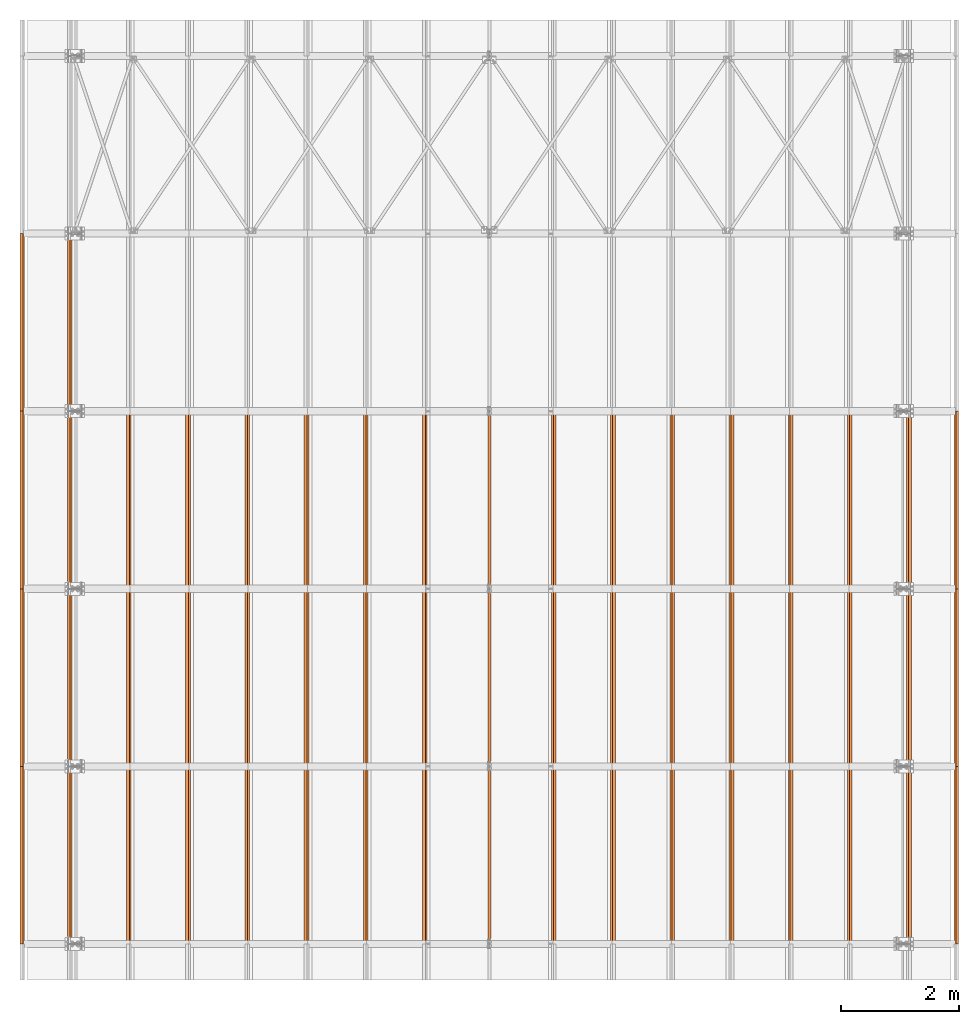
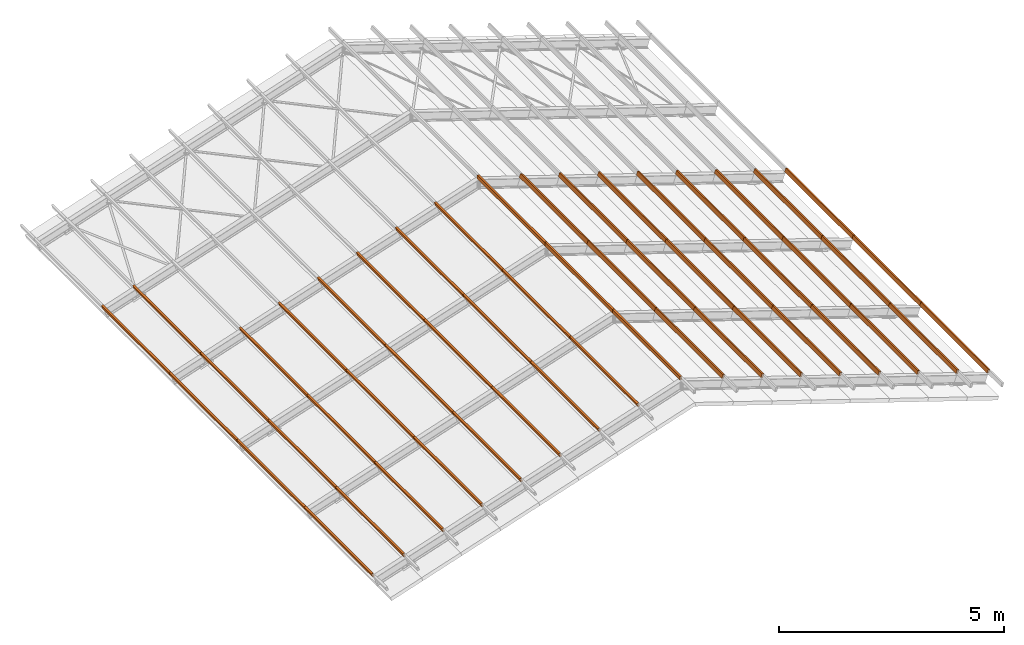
# One storey, part 51 of 53: 53 proxies.
"""IFC4 building model written with IfcOpenShell, lengths in metres."""

from ifc_helpers import new_model, si_unit, frame, frame_2d, origin_with_axes, origin_2d_with_axis, place, context, project, spatial, hollow_rectangle, l_section, extrude, material, material_profile, profile_set, profile_usage, type_object, element, save


model = new_model("IFC4")

# Units and contexts
model_context = context("Model", 3, precision=1e-05, world=origin_with_axes())
ifc_project = project(units=[si_unit("LENGTHUNIT", "METRE"), si_unit("AREAUNIT", "SQUARE_METRE"), si_unit("VOLUMEUNIT", "CUBIC_METRE"), si_unit("MASSUNIT", "GRAM", prefix="KILO"), si_unit("TIMEUNIT", "SECOND"), si_unit("PLANEANGLEUNIT", "RADIAN"), si_unit("SOLIDANGLEUNIT", "STERADIAN"), si_unit("THERMODYNAMICTEMPERATUREUNIT", "DEGREE_CELSIUS")], contexts=[model_context])

# Site, building, storey
placement_1 = place(None, origin_with_axes())
site = spatial("IfcSite", under=ifc_project, at=placement_1, Name="Italia", CompositionType="ELEMENT")
building = spatial("IfcBuilding", under=site, at=placement_1, Name="Capannone", CompositionType="ELEMENT")
storey_placement = place(None, frame((0.0, 0.0, 5.550000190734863), z_axis=(0.0, 0.0, 1.0), x_axis=(1.0, 0.0, 0.0)))
storey = spatial("IfcBuildingStorey", under=building, at=storey_placement, Name="Storey 1", CompositionType="ELEMENT", Elevation=5.550000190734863)

# Proxies
ifc_material = material(Name="Acciaio", Category="Acciaio")
ifc_material_profile = material_profile(ifc_material, l_section(Depth=0.045, Width=0.045, Thickness=0.004, FilletRadius=0.0, EdgeRadius=0.0, at=origin_2d_with_axis()), Name="2 L45x4")
ifc_profile_set = profile_set([ifc_material_profile])
ifc_profile_usage_1 = profile_usage(ifc_profile_set, cardinal=8)
member_type_1 = type_object("IfcMemberType", Name="4 RHS100x50x3.2", PredefinedType="MEMBER", material=ifc_profile_usage_1)
placement_2 = place(placement_1, origin_with_axes())
proxy_1_placement = place(placement_2, origin_with_axes())
element("IfcBuildingElementProxy", 1, at=proxy_1_placement, inside=storey, type_object=member_type_1, Name="107", context=model_context, shape_type="SweptSolid", body=[
    extrude(hollow_rectangle(XDim=0.05, YDim=0.1, WallThickness=0.0032, at=frame_2d((0.0, 0.0), x_axis=(0.950032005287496, -0.312152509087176))), frame((-0.890524, 0.0, 5.56265), z_axis=(0.0, 1.0, 0.0), x_axis=(-1.0, 0.0, 0.0)), (0.0, 0.0, 1.0), 3.0),
])
ifc_profile_usage_2 = profile_usage(ifc_profile_set, cardinal=8)
member_type_2 = type_object("IfcMemberType", Name="4 RHS100x50x3.2", PredefinedType="MEMBER", material=ifc_profile_usage_2)
proxy_2_placement = place(placement_2, origin_with_axes())
element("IfcBuildingElementProxy", 2, at=proxy_2_placement, inside=storey, type_object=member_type_2, Name="107", context=model_context, shape_type="SweptSolid", body=[
    extrude(hollow_rectangle(XDim=0.05, YDim=0.1, WallThickness=0.0032, at=frame_2d((0.0, 0.0), x_axis=(0.950032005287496, -0.312152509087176))), frame((-0.890524, 3.0, 5.56265), z_axis=(0.0, 1.0, 0.0), x_axis=(-1.0, 0.0, 0.0)), (0.0, 0.0, 1.0), 3.0),
])
ifc_profile_usage_3 = profile_usage(ifc_profile_set, cardinal=8)
member_type_3 = type_object("IfcMemberType", Name="4 RHS100x50x3.2", PredefinedType="MEMBER", material=ifc_profile_usage_3)
proxy_3_placement = place(placement_2, origin_with_axes())
element("IfcBuildingElementProxy", 3, at=proxy_3_placement, inside=storey, type_object=member_type_3, Name="107", context=model_context, shape_type="SweptSolid", body=[
    extrude(hollow_rectangle(XDim=0.05, YDim=0.1, WallThickness=0.0032, at=frame_2d((0.0, 0.0), x_axis=(0.950032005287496, -0.312152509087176))), frame((-0.890524, 6.0, 5.56265), z_axis=(0.0, 1.0, 0.0), x_axis=(-1.0, 0.0, 0.0)), (0.0, 0.0, 1.0), 3.0),
])
ifc_profile_usage_4 = profile_usage(ifc_profile_set, cardinal=8)
member_type_4 = type_object("IfcMemberType", Name="4 RHS100x50x3.2", PredefinedType="MEMBER", material=ifc_profile_usage_4)
proxy_4_placement = place(placement_2, origin_with_axes())
element("IfcBuildingElementProxy", 4, at=proxy_4_placement, inside=storey, type_object=member_type_4, Name="107", context=model_context, shape_type="SweptSolid", body=[
    extrude(hollow_rectangle(XDim=0.05, YDim=0.1, WallThickness=0.0032, at=frame_2d((0.0, 0.0), x_axis=(0.950032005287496, -0.312152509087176))), frame((-0.890524, 9.0, 5.56265), z_axis=(0.0, 1.0, 0.0), x_axis=(-1.0, 0.0, 0.0)), (0.0, 0.0, 1.0), 3.0),
])
ifc_profile_usage_5 = profile_usage(ifc_profile_set, cardinal=8)
member_type_5 = type_object("IfcMemberType", Name="4 RHS100x50x3.2", PredefinedType="MEMBER", material=ifc_profile_usage_5)
proxy_5_placement = place(placement_2, origin_with_axes())
element("IfcBuildingElementProxy", 5, at=proxy_5_placement, inside=storey, type_object=member_type_5, Name="123", context=model_context, shape_type="SweptSolid", body=[
    extrude(hollow_rectangle(XDim=0.05, YDim=0.1, WallThickness=0.0032, at=frame_2d((0.0, 0.0), x_axis=(0.950032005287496, 0.312152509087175))), frame((14.8905, 6.0, 5.56265), z_axis=(0.0, 1.0, 0.0), x_axis=(-1.0, 0.0, 0.0)), (0.0, 0.0, 1.0), 3.0),
])
ifc_profile_usage_6 = profile_usage(ifc_profile_set, cardinal=8)
member_type_6 = type_object("IfcMemberType", Name="4 RHS100x50x3.2", PredefinedType="MEMBER", material=ifc_profile_usage_6)
proxy_6_placement = place(placement_2, origin_with_axes())
element("IfcBuildingElementProxy", 6, at=proxy_6_placement, inside=storey, type_object=member_type_6, Name="123", context=model_context, shape_type="SweptSolid", body=[
    extrude(hollow_rectangle(XDim=0.05, YDim=0.1, WallThickness=0.0032, at=frame_2d((0.0, 0.0), x_axis=(0.950032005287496, 0.312152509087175))), frame((14.8905, 3.0, 5.56265), z_axis=(0.0, 1.0, 0.0), x_axis=(-1.0, 0.0, 0.0)), (0.0, 0.0, 1.0), 3.0),
])
ifc_profile_usage_7 = profile_usage(ifc_profile_set, cardinal=8)
member_type_7 = type_object("IfcMemberType", Name="4 RHS100x50x3.2", PredefinedType="MEMBER", material=ifc_profile_usage_7)
proxy_7_placement = place(placement_2, origin_with_axes())
element("IfcBuildingElementProxy", 7, at=proxy_7_placement, inside=storey, type_object=member_type_7, Name="123", context=model_context, shape_type="SweptSolid", body=[
    extrude(hollow_rectangle(XDim=0.05, YDim=0.1, WallThickness=0.0032, at=frame_2d((0.0, 0.0), x_axis=(0.950032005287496, 0.312152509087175))), frame((14.8905, 0.0, 5.56265), z_axis=(0.0, 1.0, 0.0), x_axis=(-1.0, 0.0, 0.0)), (0.0, 0.0, 1.0), 3.0),
])
ifc_profile_usage_8 = profile_usage(ifc_profile_set, cardinal=8)
member_type_8 = type_object("IfcMemberType", Name="4 RHS100x50x3.2", PredefinedType="MEMBER", material=ifc_profile_usage_8)
proxy_8_placement = place(placement_2, origin_with_axes())
element("IfcBuildingElementProxy", 8, at=proxy_8_placement, inside=storey, type_object=member_type_8, Name="122", context=model_context, shape_type="SweptSolid", body=[
    extrude(hollow_rectangle(XDim=0.05, YDim=0.1, WallThickness=0.0032, at=frame_2d((0.0, 0.0), x_axis=(0.950032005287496, 0.312152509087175))), frame((14.0905, 6.0, 5.82551), z_axis=(0.0, 1.0, 0.0), x_axis=(-1.0, 0.0, 0.0)), (0.0, 0.0, 1.0), 3.0),
])
ifc_profile_usage_9 = profile_usage(ifc_profile_set, cardinal=8)
member_type_9 = type_object("IfcMemberType", Name="4 RHS100x50x3.2", PredefinedType="MEMBER", material=ifc_profile_usage_9)
proxy_9_placement = place(placement_2, origin_with_axes())
element("IfcBuildingElementProxy", 9, at=proxy_9_placement, inside=storey, type_object=member_type_9, Name="122", context=model_context, shape_type="SweptSolid", body=[
    extrude(hollow_rectangle(XDim=0.05, YDim=0.1, WallThickness=0.0032, at=frame_2d((0.0, 0.0), x_axis=(0.950032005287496, 0.312152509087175))), frame((14.0905, 3.0, 5.82551), z_axis=(0.0, 1.0, 0.0), x_axis=(-1.0, 0.0, 0.0)), (0.0, 0.0, 1.0), 3.0),
])
ifc_profile_usage_10 = profile_usage(ifc_profile_set, cardinal=8)
member_type_10 = type_object("IfcMemberType", Name="4 RHS100x50x3.2", PredefinedType="MEMBER", material=ifc_profile_usage_10)
proxy_10_placement = place(placement_2, origin_with_axes())
element("IfcBuildingElementProxy", 10, at=proxy_10_placement, inside=storey, type_object=member_type_10, Name="108", context=model_context, shape_type="SweptSolid", body=[
    extrude(hollow_rectangle(XDim=0.05, YDim=0.1, WallThickness=0.0032, at=frame_2d((0.0, 0.0), x_axis=(0.950031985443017, -0.312152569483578))), frame((-0.0905242, 9.0, 5.82551), z_axis=(0.0, 1.0, 0.0), x_axis=(-1.0, 0.0, 0.0)), (0.0, 0.0, 1.0), 3.0),
])
ifc_profile_usage_11 = profile_usage(ifc_profile_set, cardinal=8)
member_type_11 = type_object("IfcMemberType", Name="4 RHS100x50x3.2", PredefinedType="MEMBER", material=ifc_profile_usage_11)
proxy_11_placement = place(placement_2, origin_with_axes())
element("IfcBuildingElementProxy", 11, at=proxy_11_placement, inside=storey, type_object=member_type_11, Name="108", context=model_context, shape_type="SweptSolid", body=[
    extrude(hollow_rectangle(XDim=0.05, YDim=0.1, WallThickness=0.0032, at=frame_2d((0.0, 0.0), x_axis=(0.950031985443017, -0.312152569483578))), frame((-0.0905242, 6.0, 5.82551), z_axis=(0.0, 1.0, 0.0), x_axis=(-1.0, 0.0, 0.0)), (0.0, 0.0, 1.0), 3.0),
])
ifc_profile_usage_12 = profile_usage(ifc_profile_set, cardinal=8)
member_type_12 = type_object("IfcMemberType", Name="4 RHS100x50x3.2", PredefinedType="MEMBER", material=ifc_profile_usage_12)
proxy_12_placement = place(placement_2, origin_with_axes())
element("IfcBuildingElementProxy", 12, at=proxy_12_placement, inside=storey, type_object=member_type_12, Name="108", context=model_context, shape_type="SweptSolid", body=[
    extrude(hollow_rectangle(XDim=0.05, YDim=0.1, WallThickness=0.0032, at=frame_2d((0.0, 0.0), x_axis=(0.950031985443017, -0.312152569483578))), frame((-0.0905242, 3.0, 5.82551), z_axis=(0.0, 1.0, 0.0), x_axis=(-1.0, 0.0, 0.0)), (0.0, 0.0, 1.0), 3.0),
])
ifc_profile_usage_13 = profile_usage(ifc_profile_set, cardinal=8)
member_type_13 = type_object("IfcMemberType", Name="4 RHS100x50x3.2", PredefinedType="MEMBER", material=ifc_profile_usage_13)
proxy_13_placement = place(placement_2, origin_with_axes())
element("IfcBuildingElementProxy", 13, at=proxy_13_placement, inside=storey, type_object=member_type_13, Name="115", context=model_context, shape_type="SweptSolid", body=[
    extrude(hollow_rectangle(XDim=0.05, YDim=0.1, WallThickness=0.0032, at=origin_2d_with_axis()), frame((7.0, 3.0, 8.14), z_axis=(0.0, -1.0, 0.0), x_axis=(1.0, 0.0, 0.0)), (0.0, 0.0, 1.0), 3.0),
])
ifc_profile_usage_14 = profile_usage(ifc_profile_set, cardinal=8)
member_type_14 = type_object("IfcMemberType", Name="4 RHS100x50x3.2", PredefinedType="MEMBER", material=ifc_profile_usage_14)
proxy_14_placement = place(placement_2, origin_with_axes())
element("IfcBuildingElementProxy", 14, at=proxy_14_placement, inside=storey, type_object=member_type_14, Name="115", context=model_context, shape_type="SweptSolid", body=[
    extrude(hollow_rectangle(XDim=0.05, YDim=0.1, WallThickness=0.0032, at=origin_2d_with_axis()), frame((7.0, 6.0, 8.14), z_axis=(0.0, -1.0, 0.0), x_axis=(1.0, 0.0, 0.0)), (0.0, 0.0, 1.0), 3.0),
])
ifc_profile_usage_15 = profile_usage(ifc_profile_set, cardinal=8)
member_type_15 = type_object("IfcMemberType", Name="4 RHS100x50x3.2", PredefinedType="MEMBER", material=ifc_profile_usage_15)
proxy_15_placement = place(placement_2, origin_with_axes())
element("IfcBuildingElementProxy", 15, at=proxy_15_placement, inside=storey, type_object=member_type_15, Name="115", context=model_context, shape_type="SweptSolid", body=[
    extrude(hollow_rectangle(XDim=0.05, YDim=0.1, WallThickness=0.0032, at=origin_2d_with_axis()), frame((7.0, 9.0, 8.14), z_axis=(0.0, -1.0, 0.0), x_axis=(1.0, 0.0, 0.0)), (0.0, 0.0, 1.0), 3.0),
])
ifc_profile_usage_16 = profile_usage(ifc_profile_set, cardinal=8)
member_type_16 = type_object("IfcMemberType", Name="4 RHS100x50x3.2", PredefinedType="MEMBER", material=ifc_profile_usage_16)
proxy_16_placement = place(placement_2, origin_with_axes())
element("IfcBuildingElementProxy", 16, at=proxy_16_placement, inside=storey, type_object=member_type_16, Name="114", context=model_context, shape_type="SweptSolid", body=[
    extrude(hollow_rectangle(XDim=0.05, YDim=0.1, WallThickness=0.0032, at=frame_2d((0.0, 0.0), x_axis=(0.950031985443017, -0.312152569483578))), frame((5.90948, 0.0, 7.79694), z_axis=(0.0, 1.0, 0.0), x_axis=(-1.0, 0.0, 0.0)), (0.0, 0.0, 1.0), 3.0),
])
ifc_profile_usage_17 = profile_usage(ifc_profile_set, cardinal=8)
member_type_17 = type_object("IfcMemberType", Name="4 RHS100x50x3.2", PredefinedType="MEMBER", material=ifc_profile_usage_17)
proxy_17_placement = place(placement_2, origin_with_axes())
element("IfcBuildingElementProxy", 17, at=proxy_17_placement, inside=storey, type_object=member_type_17, Name="113", context=model_context, shape_type="SweptSolid", body=[
    extrude(hollow_rectangle(XDim=0.05, YDim=0.1, WallThickness=0.0032, at=frame_2d((0.0, 0.0), x_axis=(0.950031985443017, -0.312152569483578))), frame((4.90948, 0.0, 7.46837), z_axis=(0.0, 1.0, 0.0), x_axis=(-1.0, 0.0, 0.0)), (0.0, 0.0, 1.0), 3.0),
])
ifc_profile_usage_18 = profile_usage(ifc_profile_set, cardinal=8)
member_type_18 = type_object("IfcMemberType", Name="4 RHS100x50x3.2", PredefinedType="MEMBER", material=ifc_profile_usage_18)
proxy_18_placement = place(placement_2, origin_with_axes())
element("IfcBuildingElementProxy", 18, at=proxy_18_placement, inside=storey, type_object=member_type_18, Name="112", context=model_context, shape_type="SweptSolid", body=[
    extrude(hollow_rectangle(XDim=0.05, YDim=0.1, WallThickness=0.0032, at=frame_2d((0.0, 0.0), x_axis=(0.950031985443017, -0.312152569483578))), frame((3.90948, 0.0, 7.13979), z_axis=(0.0, 1.0, 0.0), x_axis=(-1.0, 0.0, 0.0)), (0.0, 0.0, 1.0), 3.0),
])
ifc_profile_usage_19 = profile_usage(ifc_profile_set, cardinal=8)
member_type_19 = type_object("IfcMemberType", Name="4 RHS100x50x3.2", PredefinedType="MEMBER", material=ifc_profile_usage_19)
proxy_19_placement = place(placement_2, origin_with_axes())
element("IfcBuildingElementProxy", 19, at=proxy_19_placement, inside=storey, type_object=member_type_19, Name="111", context=model_context, shape_type="SweptSolid", body=[
    extrude(hollow_rectangle(XDim=0.05, YDim=0.1, WallThickness=0.0032, at=frame_2d((0.0, 0.0), x_axis=(0.950031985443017, -0.312152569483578))), frame((2.90948, 0.0, 6.81122), z_axis=(0.0, 1.0, 0.0), x_axis=(-1.0, 0.0, 0.0)), (0.0, 0.0, 1.0), 3.0),
])
ifc_profile_usage_20 = profile_usage(ifc_profile_set, cardinal=8)
member_type_20 = type_object("IfcMemberType", Name="4 RHS100x50x3.2", PredefinedType="MEMBER", material=ifc_profile_usage_20)
proxy_20_placement = place(placement_2, origin_with_axes())
element("IfcBuildingElementProxy", 20, at=proxy_20_placement, inside=storey, type_object=member_type_20, Name="110", context=model_context, shape_type="SweptSolid", body=[
    extrude(hollow_rectangle(XDim=0.05, YDim=0.1, WallThickness=0.0032, at=frame_2d((0.0, 0.0), x_axis=(0.950031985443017, -0.312152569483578))), frame((1.90948, 0.0, 6.48265), z_axis=(0.0, 1.0, 0.0), x_axis=(-1.0, 0.0, 0.0)), (0.0, 0.0, 1.0), 3.0),
])
ifc_profile_usage_21 = profile_usage(ifc_profile_set, cardinal=8)
member_type_21 = type_object("IfcMemberType", Name="4 RHS100x50x3.2", PredefinedType="MEMBER", material=ifc_profile_usage_21)
proxy_21_placement = place(placement_2, origin_with_axes())
element("IfcBuildingElementProxy", 21, at=proxy_21_placement, inside=storey, type_object=member_type_21, Name="109", context=model_context, shape_type="SweptSolid", body=[
    extrude(hollow_rectangle(XDim=0.05, YDim=0.1, WallThickness=0.0032, at=frame_2d((0.0, 0.0), x_axis=(0.950031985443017, -0.312152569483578))), frame((0.909476, 0.0, 6.15408), z_axis=(0.0, 1.0, 0.0), x_axis=(-1.0, 0.0, 0.0)), (0.0, 0.0, 1.0), 3.0),
])
ifc_profile_usage_22 = profile_usage(ifc_profile_set, cardinal=8)
member_type_22 = type_object("IfcMemberType", Name="4 RHS100x50x3.2", PredefinedType="MEMBER", material=ifc_profile_usage_22)
proxy_22_placement = place(placement_2, origin_with_axes())
element("IfcBuildingElementProxy", 22, at=proxy_22_placement, inside=storey, type_object=member_type_22, Name="109", context=model_context, shape_type="SweptSolid", body=[
    extrude(hollow_rectangle(XDim=0.05, YDim=0.1, WallThickness=0.0032, at=frame_2d((0.0, 0.0), x_axis=(0.950031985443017, -0.312152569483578))), frame((0.909476, 3.0, 6.15408), z_axis=(0.0, 1.0, 0.0), x_axis=(-1.0, 0.0, 0.0)), (0.0, 0.0, 1.0), 3.0),
])
ifc_profile_usage_23 = profile_usage(ifc_profile_set, cardinal=8)
member_type_23 = type_object("IfcMemberType", Name="4 RHS100x50x3.2", PredefinedType="MEMBER", material=ifc_profile_usage_23)
proxy_23_placement = place(placement_2, origin_with_axes())
element("IfcBuildingElementProxy", 23, at=proxy_23_placement, inside=storey, type_object=member_type_23, Name="110", context=model_context, shape_type="SweptSolid", body=[
    extrude(hollow_rectangle(XDim=0.05, YDim=0.1, WallThickness=0.0032, at=frame_2d((0.0, 0.0), x_axis=(0.950031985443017, -0.312152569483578))), frame((1.90948, 3.0, 6.48265), z_axis=(0.0, 1.0, 0.0), x_axis=(-1.0, 0.0, 0.0)), (0.0, 0.0, 1.0), 3.0),
])
ifc_profile_usage_24 = profile_usage(ifc_profile_set, cardinal=8)
member_type_24 = type_object("IfcMemberType", Name="4 RHS100x50x3.2", PredefinedType="MEMBER", material=ifc_profile_usage_24)
proxy_24_placement = place(placement_2, origin_with_axes())
element("IfcBuildingElementProxy", 24, at=proxy_24_placement, inside=storey, type_object=member_type_24, Name="111", context=model_context, shape_type="SweptSolid", body=[
    extrude(hollow_rectangle(XDim=0.05, YDim=0.1, WallThickness=0.0032, at=frame_2d((0.0, 0.0), x_axis=(0.950031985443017, -0.312152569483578))), frame((2.90948, 3.0, 6.81122), z_axis=(0.0, 1.0, 0.0), x_axis=(-1.0, 0.0, 0.0)), (0.0, 0.0, 1.0), 3.0),
])
ifc_profile_usage_25 = profile_usage(ifc_profile_set, cardinal=8)
member_type_25 = type_object("IfcMemberType", Name="4 RHS100x50x3.2", PredefinedType="MEMBER", material=ifc_profile_usage_25)
proxy_25_placement = place(placement_2, origin_with_axes())
element("IfcBuildingElementProxy", 25, at=proxy_25_placement, inside=storey, type_object=member_type_25, Name="112", context=model_context, shape_type="SweptSolid", body=[
    extrude(hollow_rectangle(XDim=0.05, YDim=0.1, WallThickness=0.0032, at=frame_2d((0.0, 0.0), x_axis=(0.950031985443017, -0.312152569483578))), frame((3.90948, 3.0, 7.13979), z_axis=(0.0, 1.0, 0.0), x_axis=(-1.0, 0.0, 0.0)), (0.0, 0.0, 1.0), 3.0),
])
ifc_profile_usage_26 = profile_usage(ifc_profile_set, cardinal=8)
member_type_26 = type_object("IfcMemberType", Name="4 RHS100x50x3.2", PredefinedType="MEMBER", material=ifc_profile_usage_26)
proxy_26_placement = place(placement_2, origin_with_axes())
element("IfcBuildingElementProxy", 26, at=proxy_26_placement, inside=storey, type_object=member_type_26, Name="113", context=model_context, shape_type="SweptSolid", body=[
    extrude(hollow_rectangle(XDim=0.05, YDim=0.1, WallThickness=0.0032, at=frame_2d((0.0, 0.0), x_axis=(0.950031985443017, -0.312152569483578))), frame((4.90948, 3.0, 7.46837), z_axis=(0.0, 1.0, 0.0), x_axis=(-1.0, 0.0, 0.0)), (0.0, 0.0, 1.0), 3.0),
])
ifc_profile_usage_27 = profile_usage(ifc_profile_set, cardinal=8)
member_type_27 = type_object("IfcMemberType", Name="4 RHS100x50x3.2", PredefinedType="MEMBER", material=ifc_profile_usage_27)
proxy_27_placement = place(placement_2, origin_with_axes())
element("IfcBuildingElementProxy", 27, at=proxy_27_placement, inside=storey, type_object=member_type_27, Name="114", context=model_context, shape_type="SweptSolid", body=[
    extrude(hollow_rectangle(XDim=0.05, YDim=0.1, WallThickness=0.0032, at=frame_2d((0.0, 0.0), x_axis=(0.950031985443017, -0.312152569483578))), frame((5.90948, 3.0, 7.79694), z_axis=(0.0, 1.0, 0.0), x_axis=(-1.0, 0.0, 0.0)), (0.0, 0.0, 1.0), 3.0),
])
ifc_profile_usage_28 = profile_usage(ifc_profile_set, cardinal=8)
member_type_28 = type_object("IfcMemberType", Name="4 RHS100x50x3.2", PredefinedType="MEMBER", material=ifc_profile_usage_28)
proxy_28_placement = place(placement_2, origin_with_axes())
element("IfcBuildingElementProxy", 28, at=proxy_28_placement, inside=storey, type_object=member_type_28, Name="109", context=model_context, shape_type="SweptSolid", body=[
    extrude(hollow_rectangle(XDim=0.05, YDim=0.1, WallThickness=0.0032, at=frame_2d((0.0, 0.0), x_axis=(0.950031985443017, -0.312152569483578))), frame((0.909476, 6.0, 6.15408), z_axis=(0.0, 1.0, 0.0), x_axis=(-1.0, 0.0, 0.0)), (0.0, 0.0, 1.0), 3.0),
])
ifc_profile_usage_29 = profile_usage(ifc_profile_set, cardinal=8)
member_type_29 = type_object("IfcMemberType", Name="4 RHS100x50x3.2", PredefinedType="MEMBER", material=ifc_profile_usage_29)
proxy_29_placement = place(placement_2, origin_with_axes())
element("IfcBuildingElementProxy", 29, at=proxy_29_placement, inside=storey, type_object=member_type_29, Name="110", context=model_context, shape_type="SweptSolid", body=[
    extrude(hollow_rectangle(XDim=0.05, YDim=0.1, WallThickness=0.0032, at=frame_2d((0.0, 0.0), x_axis=(0.950031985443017, -0.312152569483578))), frame((1.90948, 6.0, 6.48265), z_axis=(0.0, 1.0, 0.0), x_axis=(-1.0, 0.0, 0.0)), (0.0, 0.0, 1.0), 3.0),
])
ifc_profile_usage_30 = profile_usage(ifc_profile_set, cardinal=8)
member_type_30 = type_object("IfcMemberType", Name="4 RHS100x50x3.2", PredefinedType="MEMBER", material=ifc_profile_usage_30)
proxy_30_placement = place(placement_2, origin_with_axes())
element("IfcBuildingElementProxy", 30, at=proxy_30_placement, inside=storey, type_object=member_type_30, Name="111", context=model_context, shape_type="SweptSolid", body=[
    extrude(hollow_rectangle(XDim=0.05, YDim=0.1, WallThickness=0.0032, at=frame_2d((0.0, 0.0), x_axis=(0.950031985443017, -0.312152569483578))), frame((2.90948, 6.0, 6.81122), z_axis=(0.0, 1.0, 0.0), x_axis=(-1.0, 0.0, 0.0)), (0.0, 0.0, 1.0), 3.0),
])
ifc_profile_usage_31 = profile_usage(ifc_profile_set, cardinal=8)
member_type_31 = type_object("IfcMemberType", Name="4 RHS100x50x3.2", PredefinedType="MEMBER", material=ifc_profile_usage_31)
proxy_31_placement = place(placement_2, origin_with_axes())
element("IfcBuildingElementProxy", 31, at=proxy_31_placement, inside=storey, type_object=member_type_31, Name="112", context=model_context, shape_type="SweptSolid", body=[
    extrude(hollow_rectangle(XDim=0.05, YDim=0.1, WallThickness=0.0032, at=frame_2d((0.0, 0.0), x_axis=(0.950031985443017, -0.312152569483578))), frame((3.90948, 6.0, 7.13979), z_axis=(0.0, 1.0, 0.0), x_axis=(-1.0, 0.0, 0.0)), (0.0, 0.0, 1.0), 3.0),
])
ifc_profile_usage_32 = profile_usage(ifc_profile_set, cardinal=8)
member_type_32 = type_object("IfcMemberType", Name="4 RHS100x50x3.2", PredefinedType="MEMBER", material=ifc_profile_usage_32)
proxy_32_placement = place(placement_2, origin_with_axes())
element("IfcBuildingElementProxy", 32, at=proxy_32_placement, inside=storey, type_object=member_type_32, Name="113", context=model_context, shape_type="SweptSolid", body=[
    extrude(hollow_rectangle(XDim=0.05, YDim=0.1, WallThickness=0.0032, at=frame_2d((0.0, 0.0), x_axis=(0.950031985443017, -0.312152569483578))), frame((4.90948, 6.0, 7.46837), z_axis=(0.0, 1.0, 0.0), x_axis=(-1.0, 0.0, 0.0)), (0.0, 0.0, 1.0), 3.0),
])
ifc_profile_usage_33 = profile_usage(ifc_profile_set, cardinal=8)
member_type_33 = type_object("IfcMemberType", Name="4 RHS100x50x3.2", PredefinedType="MEMBER", material=ifc_profile_usage_33)
proxy_33_placement = place(placement_2, origin_with_axes())
element("IfcBuildingElementProxy", 33, at=proxy_33_placement, inside=storey, type_object=member_type_33, Name="114", context=model_context, shape_type="SweptSolid", body=[
    extrude(hollow_rectangle(XDim=0.05, YDim=0.1, WallThickness=0.0032, at=frame_2d((0.0, 0.0), x_axis=(0.950031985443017, -0.312152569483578))), frame((5.90948, 6.0, 7.79694), z_axis=(0.0, 1.0, 0.0), x_axis=(-1.0, 0.0, 0.0)), (0.0, 0.0, 1.0), 3.0),
])
ifc_profile_usage_34 = profile_usage(ifc_profile_set, cardinal=8)
member_type_34 = type_object("IfcMemberType", Name="4 RHS100x50x3.2", PredefinedType="MEMBER", material=ifc_profile_usage_34)
proxy_34_placement = place(placement_2, origin_with_axes())
element("IfcBuildingElementProxy", 34, at=proxy_34_placement, inside=storey, type_object=member_type_34, Name="116", context=model_context, shape_type="SweptSolid", body=[
    extrude(hollow_rectangle(XDim=0.05, YDim=0.1, WallThickness=0.0032, at=frame_2d((0.0, 0.0), x_axis=(0.950032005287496, 0.312152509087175))), frame((8.09052, 6.0, 7.79694), z_axis=(0.0, 1.0, 0.0), x_axis=(-1.0, 0.0, 0.0)), (0.0, 0.0, 1.0), 3.0),
])
ifc_profile_usage_35 = profile_usage(ifc_profile_set, cardinal=8)
member_type_35 = type_object("IfcMemberType", Name="4 RHS100x50x3.2", PredefinedType="MEMBER", material=ifc_profile_usage_35)
proxy_35_placement = place(placement_2, origin_with_axes())
element("IfcBuildingElementProxy", 35, at=proxy_35_placement, inside=storey, type_object=member_type_35, Name="117", context=model_context, shape_type="SweptSolid", body=[
    extrude(hollow_rectangle(XDim=0.05, YDim=0.1, WallThickness=0.0032, at=frame_2d((0.0, 0.0), x_axis=(0.950032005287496, 0.312152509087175))), frame((9.09052, 6.0, 7.46837), z_axis=(0.0, 1.0, 0.0), x_axis=(-1.0, 0.0, 0.0)), (0.0, 0.0, 1.0), 3.0),
])
ifc_profile_usage_36 = profile_usage(ifc_profile_set, cardinal=8)
member_type_36 = type_object("IfcMemberType", Name="4 RHS100x50x3.2", PredefinedType="MEMBER", material=ifc_profile_usage_36)
proxy_36_placement = place(placement_2, origin_with_axes())
element("IfcBuildingElementProxy", 36, at=proxy_36_placement, inside=storey, type_object=member_type_36, Name="118", context=model_context, shape_type="SweptSolid", body=[
    extrude(hollow_rectangle(XDim=0.05, YDim=0.1, WallThickness=0.0032, at=frame_2d((0.0, 0.0), x_axis=(0.950032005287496, 0.312152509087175))), frame((10.0905, 6.0, 7.1398), z_axis=(0.0, 1.0, 0.0), x_axis=(-1.0, 0.0, 0.0)), (0.0, 0.0, 1.0), 3.0),
])
ifc_profile_usage_37 = profile_usage(ifc_profile_set, cardinal=8)
member_type_37 = type_object("IfcMemberType", Name="4 RHS100x50x3.2", PredefinedType="MEMBER", material=ifc_profile_usage_37)
proxy_37_placement = place(placement_2, origin_with_axes())
element("IfcBuildingElementProxy", 37, at=proxy_37_placement, inside=storey, type_object=member_type_37, Name="119", context=model_context, shape_type="SweptSolid", body=[
    extrude(hollow_rectangle(XDim=0.05, YDim=0.1, WallThickness=0.0032, at=frame_2d((0.0, 0.0), x_axis=(0.950032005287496, 0.312152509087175))), frame((11.0905, 6.0, 6.81122), z_axis=(0.0, 1.0, 0.0), x_axis=(-1.0, 0.0, 0.0)), (0.0, 0.0, 1.0), 3.0),
])
ifc_profile_usage_38 = profile_usage(ifc_profile_set, cardinal=8)
member_type_38 = type_object("IfcMemberType", Name="4 RHS100x50x3.2", PredefinedType="MEMBER", material=ifc_profile_usage_38)
proxy_38_placement = place(placement_2, origin_with_axes())
element("IfcBuildingElementProxy", 38, at=proxy_38_placement, inside=storey, type_object=member_type_38, Name="120", context=model_context, shape_type="SweptSolid", body=[
    extrude(hollow_rectangle(XDim=0.05, YDim=0.1, WallThickness=0.0032, at=frame_2d((0.0, 0.0), x_axis=(0.950032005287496, 0.312152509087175))), frame((12.0905, 6.0, 6.48265), z_axis=(0.0, 1.0, 0.0), x_axis=(-1.0, 0.0, 0.0)), (0.0, 0.0, 1.0), 3.0),
])
ifc_profile_usage_39 = profile_usage(ifc_profile_set, cardinal=8)
member_type_39 = type_object("IfcMemberType", Name="4 RHS100x50x3.2", PredefinedType="MEMBER", material=ifc_profile_usage_39)
proxy_39_placement = place(placement_2, origin_with_axes())
element("IfcBuildingElementProxy", 39, at=proxy_39_placement, inside=storey, type_object=member_type_39, Name="121", context=model_context, shape_type="SweptSolid", body=[
    extrude(hollow_rectangle(XDim=0.05, YDim=0.1, WallThickness=0.0032, at=frame_2d((0.0, 0.0), x_axis=(0.950032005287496, 0.312152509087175))), frame((13.0905, 6.0, 6.15408), z_axis=(0.0, 1.0, 0.0), x_axis=(-1.0, 0.0, 0.0)), (0.0, 0.0, 1.0), 3.0),
])
ifc_profile_usage_40 = profile_usage(ifc_profile_set, cardinal=8)
member_type_40 = type_object("IfcMemberType", Name="4 RHS100x50x3.2", PredefinedType="MEMBER", material=ifc_profile_usage_40)
proxy_40_placement = place(placement_2, origin_with_axes())
element("IfcBuildingElementProxy", 40, at=proxy_40_placement, inside=storey, type_object=member_type_40, Name="116", context=model_context, shape_type="SweptSolid", body=[
    extrude(hollow_rectangle(XDim=0.05, YDim=0.1, WallThickness=0.0032, at=frame_2d((0.0, 0.0), x_axis=(0.950032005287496, 0.312152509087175))), frame((8.09052, 3.0, 7.79694), z_axis=(0.0, 1.0, 0.0), x_axis=(-1.0, 0.0, 0.0)), (0.0, 0.0, 1.0), 3.0),
])
ifc_profile_usage_41 = profile_usage(ifc_profile_set, cardinal=8)
member_type_41 = type_object("IfcMemberType", Name="4 RHS100x50x3.2", PredefinedType="MEMBER", material=ifc_profile_usage_41)
proxy_41_placement = place(placement_2, origin_with_axes())
element("IfcBuildingElementProxy", 41, at=proxy_41_placement, inside=storey, type_object=member_type_41, Name="117", context=model_context, shape_type="SweptSolid", body=[
    extrude(hollow_rectangle(XDim=0.05, YDim=0.1, WallThickness=0.0032, at=frame_2d((0.0, 0.0), x_axis=(0.950032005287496, 0.312152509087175))), frame((9.09052, 3.0, 7.46837), z_axis=(0.0, 1.0, 0.0), x_axis=(-1.0, 0.0, 0.0)), (0.0, 0.0, 1.0), 3.0),
])
ifc_profile_usage_42 = profile_usage(ifc_profile_set, cardinal=8)
member_type_42 = type_object("IfcMemberType", Name="4 RHS100x50x3.2", PredefinedType="MEMBER", material=ifc_profile_usage_42)
proxy_42_placement = place(placement_2, origin_with_axes())
element("IfcBuildingElementProxy", 42, at=proxy_42_placement, inside=storey, type_object=member_type_42, Name="118", context=model_context, shape_type="SweptSolid", body=[
    extrude(hollow_rectangle(XDim=0.05, YDim=0.1, WallThickness=0.0032, at=frame_2d((0.0, 0.0), x_axis=(0.950032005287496, 0.312152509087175))), frame((10.0905, 3.0, 7.1398), z_axis=(0.0, 1.0, 0.0), x_axis=(-1.0, 0.0, 0.0)), (0.0, 0.0, 1.0), 3.0),
])
ifc_profile_usage_43 = profile_usage(ifc_profile_set, cardinal=8)
member_type_43 = type_object("IfcMemberType", Name="4 RHS100x50x3.2", PredefinedType="MEMBER", material=ifc_profile_usage_43)
proxy_43_placement = place(placement_2, origin_with_axes())
element("IfcBuildingElementProxy", 43, at=proxy_43_placement, inside=storey, type_object=member_type_43, Name="119", context=model_context, shape_type="SweptSolid", body=[
    extrude(hollow_rectangle(XDim=0.05, YDim=0.1, WallThickness=0.0032, at=frame_2d((0.0, 0.0), x_axis=(0.950032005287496, 0.312152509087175))), frame((11.0905, 3.0, 6.81122), z_axis=(0.0, 1.0, 0.0), x_axis=(-1.0, 0.0, 0.0)), (0.0, 0.0, 1.0), 3.0),
])
ifc_profile_usage_44 = profile_usage(ifc_profile_set, cardinal=8)
member_type_44 = type_object("IfcMemberType", Name="4 RHS100x50x3.2", PredefinedType="MEMBER", material=ifc_profile_usage_44)
proxy_44_placement = place(placement_2, origin_with_axes())
element("IfcBuildingElementProxy", 44, at=proxy_44_placement, inside=storey, type_object=member_type_44, Name="120", context=model_context, shape_type="SweptSolid", body=[
    extrude(hollow_rectangle(XDim=0.05, YDim=0.1, WallThickness=0.0032, at=frame_2d((0.0, 0.0), x_axis=(0.950032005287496, 0.312152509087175))), frame((12.0905, 3.0, 6.48265), z_axis=(0.0, 1.0, 0.0), x_axis=(-1.0, 0.0, 0.0)), (0.0, 0.0, 1.0), 3.0),
])
ifc_profile_usage_45 = profile_usage(ifc_profile_set, cardinal=8)
member_type_45 = type_object("IfcMemberType", Name="4 RHS100x50x3.2", PredefinedType="MEMBER", material=ifc_profile_usage_45)
proxy_45_placement = place(placement_2, origin_with_axes())
element("IfcBuildingElementProxy", 45, at=proxy_45_placement, inside=storey, type_object=member_type_45, Name="121", context=model_context, shape_type="SweptSolid", body=[
    extrude(hollow_rectangle(XDim=0.05, YDim=0.1, WallThickness=0.0032, at=frame_2d((0.0, 0.0), x_axis=(0.950032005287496, 0.312152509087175))), frame((13.0905, 3.0, 6.15408), z_axis=(0.0, 1.0, 0.0), x_axis=(-1.0, 0.0, 0.0)), (0.0, 0.0, 1.0), 3.0),
])
ifc_profile_usage_46 = profile_usage(ifc_profile_set, cardinal=8)
member_type_46 = type_object("IfcMemberType", Name="4 RHS100x50x3.2", PredefinedType="MEMBER", material=ifc_profile_usage_46)
proxy_46_placement = place(placement_2, origin_with_axes())
element("IfcBuildingElementProxy", 46, at=proxy_46_placement, inside=storey, type_object=member_type_46, Name="121", context=model_context, shape_type="SweptSolid", body=[
    extrude(hollow_rectangle(XDim=0.05, YDim=0.1, WallThickness=0.0032, at=frame_2d((0.0, 0.0), x_axis=(0.950032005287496, 0.312152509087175))), frame((13.0905, 0.0, 6.15408), z_axis=(0.0, 1.0, 0.0), x_axis=(-1.0, 0.0, 0.0)), (0.0, 0.0, 1.0), 3.0),
])
ifc_profile_usage_47 = profile_usage(ifc_profile_set, cardinal=8)
member_type_47 = type_object("IfcMemberType", Name="4 RHS100x50x3.2", PredefinedType="MEMBER", material=ifc_profile_usage_47)
proxy_47_placement = place(placement_2, origin_with_axes())
element("IfcBuildingElementProxy", 47, at=proxy_47_placement, inside=storey, type_object=member_type_47, Name="120", context=model_context, shape_type="SweptSolid", body=[
    extrude(hollow_rectangle(XDim=0.05, YDim=0.1, WallThickness=0.0032, at=frame_2d((0.0, 0.0), x_axis=(0.950032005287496, 0.312152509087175))), frame((12.0905, 0.0, 6.48265), z_axis=(0.0, 1.0, 0.0), x_axis=(-1.0, 0.0, 0.0)), (0.0, 0.0, 1.0), 3.0),
])
ifc_profile_usage_48 = profile_usage(ifc_profile_set, cardinal=8)
member_type_48 = type_object("IfcMemberType", Name="4 RHS100x50x3.2", PredefinedType="MEMBER", material=ifc_profile_usage_48)
proxy_48_placement = place(placement_2, origin_with_axes())
element("IfcBuildingElementProxy", 48, at=proxy_48_placement, inside=storey, type_object=member_type_48, Name="119", context=model_context, shape_type="SweptSolid", body=[
    extrude(hollow_rectangle(XDim=0.05, YDim=0.1, WallThickness=0.0032, at=frame_2d((0.0, 0.0), x_axis=(0.950032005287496, 0.312152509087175))), frame((11.0905, 0.0, 6.81122), z_axis=(0.0, 1.0, 0.0), x_axis=(-1.0, 0.0, 0.0)), (0.0, 0.0, 1.0), 3.0),
])
ifc_profile_usage_49 = profile_usage(ifc_profile_set, cardinal=8)
member_type_49 = type_object("IfcMemberType", Name="4 RHS100x50x3.2", PredefinedType="MEMBER", material=ifc_profile_usage_49)
proxy_49_placement = place(placement_2, origin_with_axes())
element("IfcBuildingElementProxy", 49, at=proxy_49_placement, inside=storey, type_object=member_type_49, Name="118", context=model_context, shape_type="SweptSolid", body=[
    extrude(hollow_rectangle(XDim=0.05, YDim=0.1, WallThickness=0.0032, at=frame_2d((0.0, 0.0), x_axis=(0.950032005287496, 0.312152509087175))), frame((10.0905, 0.0, 7.1398), z_axis=(0.0, 1.0, 0.0), x_axis=(-1.0, 0.0, 0.0)), (0.0, 0.0, 1.0), 3.0),
])
ifc_profile_usage_50 = profile_usage(ifc_profile_set, cardinal=8)
member_type_50 = type_object("IfcMemberType", Name="4 RHS100x50x3.2", PredefinedType="MEMBER", material=ifc_profile_usage_50)
proxy_50_placement = place(placement_2, origin_with_axes())
element("IfcBuildingElementProxy", 50, at=proxy_50_placement, inside=storey, type_object=member_type_50, Name="117", context=model_context, shape_type="SweptSolid", body=[
    extrude(hollow_rectangle(XDim=0.05, YDim=0.1, WallThickness=0.0032, at=frame_2d((0.0, 0.0), x_axis=(0.950032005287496, 0.312152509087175))), frame((9.09052, 0.0, 7.46837), z_axis=(0.0, 1.0, 0.0), x_axis=(-1.0, 0.0, 0.0)), (0.0, 0.0, 1.0), 3.0),
])
ifc_profile_usage_51 = profile_usage(ifc_profile_set, cardinal=8)
member_type_51 = type_object("IfcMemberType", Name="4 RHS100x50x3.2", PredefinedType="MEMBER", material=ifc_profile_usage_51)
proxy_51_placement = place(placement_2, origin_with_axes())
element("IfcBuildingElementProxy", 51, at=proxy_51_placement, inside=storey, type_object=member_type_51, Name="116", context=model_context, shape_type="SweptSolid", body=[
    extrude(hollow_rectangle(XDim=0.05, YDim=0.1, WallThickness=0.0032, at=frame_2d((0.0, 0.0), x_axis=(0.950032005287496, 0.312152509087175))), frame((8.09052, 0.0, 7.79694), z_axis=(0.0, 1.0, 0.0), x_axis=(-1.0, 0.0, 0.0)), (0.0, 0.0, 1.0), 3.0),
])
ifc_profile_usage_52 = profile_usage(ifc_profile_set, cardinal=8)
member_type_52 = type_object("IfcMemberType", Name="4 RHS100x50x3.2", PredefinedType="MEMBER", material=ifc_profile_usage_52)
proxy_52_placement = place(placement_2, origin_with_axes())
element("IfcBuildingElementProxy", 52, at=proxy_52_placement, inside=storey, type_object=member_type_52, Name="108", context=model_context, shape_type="SweptSolid", body=[
    extrude(hollow_rectangle(XDim=0.05, YDim=0.1, WallThickness=0.0032, at=frame_2d((0.0, 0.0), x_axis=(0.950031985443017, -0.312152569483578))), frame((-0.0905242, 0.0, 5.82551), z_axis=(0.0, 1.0, 0.0), x_axis=(-1.0, 0.0, 0.0)), (0.0, 0.0, 1.0), 3.0),
])
ifc_profile_usage_53 = profile_usage(ifc_profile_set, cardinal=8)
member_type_53 = type_object("IfcMemberType", Name="4 RHS100x50x3.2", PredefinedType="MEMBER", material=ifc_profile_usage_53)
proxy_53_placement = place(placement_2, origin_with_axes())
element("IfcBuildingElementProxy", 53, at=proxy_53_placement, inside=storey, type_object=member_type_53, Name="122", context=model_context, shape_type="SweptSolid", body=[
    extrude(hollow_rectangle(XDim=0.05, YDim=0.1, WallThickness=0.0032, at=frame_2d((0.0, 0.0), x_axis=(0.950032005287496, 0.312152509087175))), frame((14.0905, 0.0, 5.82551), z_axis=(0.0, 1.0, 0.0), x_axis=(-1.0, 0.0, 0.0)), (0.0, 0.0, 1.0), 3.0),
])

save(model, "model.ifc")
